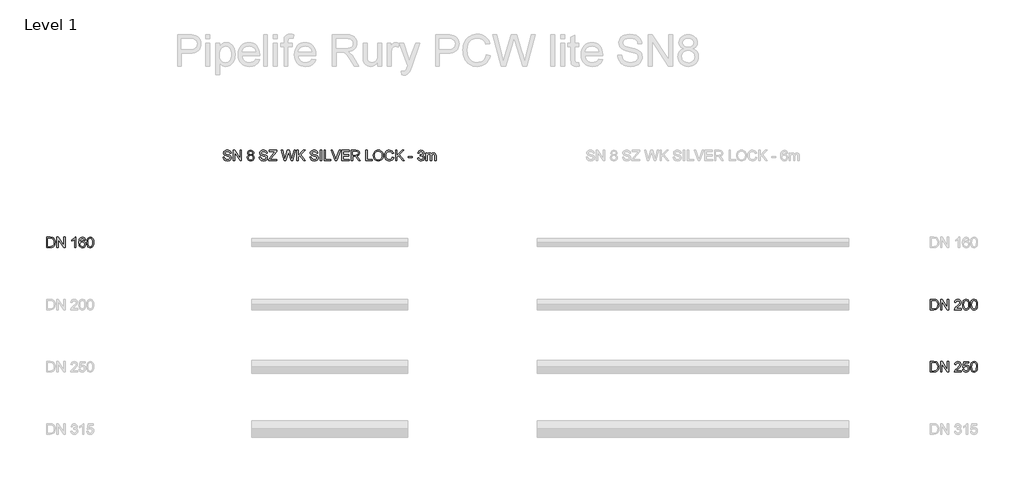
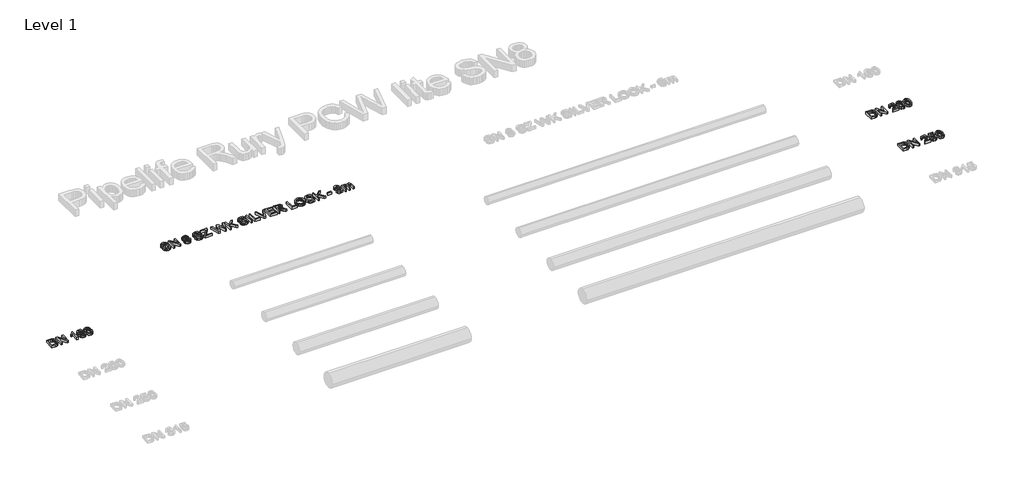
# One storey, part 6 of 8: 4 proxies.
"""IFC4 building model written with IfcOpenShell, lengths in millimetres."""

from ifc_helpers import new_model, si_unit, origin, origin_with_axes, place, context, project, spatial, polyline, outline, extrude, element, save

model = new_model("IFC4")

# Units and contexts
model_context = context("Model", 3, world=origin())
ifc_project = project(units=[si_unit("LENGTHUNIT", "METRE", prefix="MILLI")], contexts=[model_context])

# Site, building, storey
site = spatial("IfcSite", under=ifc_project)
building = spatial("IfcBuilding", under=site)
storey = spatial("IfcBuildingStorey", under=building, Name="Level 1", Elevation=0.0)

# Proxies
placement = place(None, origin())
element("IfcBuildingElementProxy", 1, Name="200mm Arial", ObjectType="200mm Arial", at=placement, inside=storey, context=model_context, shape_type="SweptSolid", body=[
    extrude(outline(polyline([(-19491.3116028, 486.050427), (-19491.3116028, 686.9630473), (-19422.0026349, 686.9630473), (-19386.1464031, 684.0690423), (-19370.1312736, 678.4894987), (-19356.6177416, 669.697119), (-19342.724065, 654.393228), (-19332.8280393, 635.3614662), (-19326.9051392, 612.9697154), (-19324.9308391, 587.5858577), (-19330.2773908, 547.0452618), (-19344.0116519, 517.7863805), (-19362.3567008, 499.563959), (-19386.3671323, 489.4839923), (-19418.6671715, 486.050427), (-19491.3116028, 486.050427)]), holes=[polyline([(-19466.1975253, 511.1645046), (-19421.7573803, 511.1645046), (-19389.4328156, 514.7942736), (-19370.7934612, 525.0459185), (-19362.0685265, 535.9168315), (-19355.5140957, 549.9883178), (-19351.4122114, 567.3216911), (-19350.0449167, 587.9782652), (-19352.7243239, 615.3486856), (-19360.7625455, 635.5576699), (-19372.6390025, 649.4390838), (-19386.8331162, 657.8267933), (-19422.4440933, 661.8489698), (-19466.1975253, 661.8489698), (-19466.1975253, 511.1645046)])]), origin_with_axes(), (0.0, 0.0, 1.0), 50.0),
    extrude(outline(polyline([(-19290.3989825, 486.050427), (-19290.3989825, 686.9630473), (-19263.5190714, 686.9630473), (-19158.5500754, 527.7927708), (-19158.5500754, 686.9630473), (-19133.4359979, 686.9630473), (-19133.4359979, 486.050427), (-19160.315909, 486.050427), (-19265.284905, 645.2697546), (-19265.284905, 486.050427), (-19290.3989825, 486.050427)])), origin_with_axes(), (0.0, 0.0, 1.0), 50.0),
    extrude(outline(polyline([(-18926.2448582, 486.050427), (-18951.3589358, 486.050427), (-18951.3589358, 642.6210042), (-18975.1486381, 625.6739069), (-19001.5870908, 612.9942408), (-19001.5870908, 636.7348923), (-18964.7743658, 660.230289), (-18951.3037535, 673.8051347), (-18942.431666, 686.9630473), (-18926.2448582, 686.9630473), (-18926.2448582, 486.050427)])), origin_with_axes(), (0.0, 0.0, 1.0), 50.0),
    extrude(outline(polyline([(-18737.8892767, 633.5956326), (-18763.0033542, 630.4563729), (-18772.5192352, 651.4011211), (-18783.9113143, 659.2370076), (-18797.6823636, 661.8489698), (-18820.3438945, 655.7666542), (-18829.7800677, 646.1588027), (-18837.4871955, 632.933445), (-18842.6927257, 614.2266455), (-18844.6241062, 588.1744689), (-18834.5502709, 599.9282987), (-18822.4776101, 608.2117749), (-18809.0805741, 613.1229995), (-18795.0336133, 614.7600744), (-18771.8325221, 610.2841768), (-18752.3593018, 596.856484), (-18739.1523382, 576.3409314), (-18734.750017, 550.6014545), (-18736.8224189, 532.6181563), (-18743.0396246, 515.9469705), (-18752.8865994, 501.8080392), (-18765.8483083, 491.4215042), (-18781.3361403, 485.0387516), (-18798.7614842, 482.9111674), (-18827.2539447, 488.5520246), (-18849.9461324, 505.4745964), (-18858.6051549, 518.5834582), (-18864.7901709, 535.3466144), (-18869.7381838, 579.8358103), (-18864.2444793, 629.855499), (-18857.3773487, 648.9332461), (-18847.7633659, 664.0562618), (-18837.3431084, 674.0779805), (-18825.2612505, 681.236351), (-18796.1127338, 686.9630473), (-18774.0766023, 683.4191175), (-18756.4305292, 672.7873278), (-18744.0696942, 655.9015442), (-18737.8892767, 633.5956326)]), holes=[polyline([(-18844.6241062, 550.9938619), (-18838.8115707, 529.2397733), (-18823.3605269, 513.445373), (-18800.7235215, 508.0252449), (-18784.1504376, 510.8334108), (-18771.1212836, 519.2579085), (-18762.6783918, 532.5016603), (-18759.8640945, 549.7675886), (-18762.6416036, 566.3406725), (-18770.9741308, 578.977419), (-18784.224014, 586.9788524), (-18801.7535911, 589.6459969), (-18818.3021495, 586.9788524), (-18832.1406439, 578.977419), (-18841.5032406, 566.6472408), (-18844.6241062, 550.9938619)])]), origin_with_axes(), (0.0, 0.0, 1.0), 50.0),
    extrude(outline(polyline([(-18712.7751992, 584.8880564), (-18710.9296578, 617.0470742), (-18705.3930338, 642.6945806), (-18696.2205094, 662.2229832), (-18683.4672669, 676.0246894), (-18667.0413358, 684.2284578), (-18646.8507456, 686.9630473), (-18631.3751764, 685.3443666), (-18617.5182879, 680.4883242), (-18605.930005, 672.5849927), (-18597.2602527, 661.8244443), (-18585.4880288, 632.0995791), (-18580.9262921, 584.8880564), (-18582.7534393, 552.9129797), (-18588.2348811, 527.3267869), (-18597.3522232, 507.7799902), (-18610.0870716, 493.9231017), (-18626.5497909, 485.664151), (-18646.8507456, 482.9111674), (-18672.9458418, 487.6936333), (-18692.7624186, 502.0410311), (-18701.5180101, 517.1701782), (-18707.772004, 536.0210647), (-18712.7751992, 584.8880564)]), holes=[polyline([(-18687.6611216, 584.9371073), (-18684.7180657, 545.4327124), (-18675.8888978, 522.5688464), (-18662.7432478, 511.6611453), (-18646.8507456, 508.0252449), (-18630.9582434, 511.673408), (-18617.8125935, 522.6178974), (-18608.9834256, 545.4940261), (-18606.0403696, 584.9371073), (-18608.8853237, 623.5524541), (-18617.420186, 646.5941297), (-18630.5413105, 658.0352598), (-18647.1450512, 661.8489698), (-18662.8658751, 658.4889809), (-18675.4964903, 648.4090143), (-18684.6199638, 623.9325988), (-18687.6611216, 584.9371073)])]), origin_with_axes(), (0.0, 0.0, 1.0), 50.0),
])
element("IfcBuildingElementProxy", 2, Name="200mm Arial", ObjectType="200mm Arial", at=placement, inside=storey, context=model_context, shape_type="SweptSolid", body=[
    extrude(outline(polyline([(-2460.6923074, -713.949573), (-2460.6923074, -513.0369527), (-2391.3833395, -513.0369527), (-2355.5271077, -515.9309577), (-2339.5119782, -521.5105013), (-2325.9984462, -530.302881), (-2312.1047695, -545.606772), (-2302.2087438, -564.6385338), (-2296.2858437, -587.0302846), (-2294.3115437, -612.4141423), (-2299.6580953, -652.9547382), (-2313.3923565, -682.2136195), (-2331.7374053, -700.436041), (-2355.7478369, -710.5160077), (-2388.0478761, -713.949573), (-2460.6923074, -713.949573)]), holes=[polyline([(-2435.5782298, -688.8354954), (-2391.1380848, -688.8354954), (-2358.8135202, -685.2057264), (-2340.1741658, -674.9540815), (-2331.4492311, -664.0831685), (-2324.8948002, -650.0116822), (-2320.792916, -632.6783089), (-2319.4256212, -612.0217348), (-2322.1050284, -584.6513144), (-2330.14325, -564.4423301), (-2342.0197071, -550.5609162), (-2356.2138207, -542.1732067), (-2391.8247979, -538.1510302), (-2435.5782298, -538.1510302), (-2435.5782298, -688.8354954)])]), origin_with_axes(), (0.0, 0.0, 1.0), 50.0),
    extrude(outline(polyline([(-2259.7796871, -713.949573), (-2259.7796871, -513.0369527), (-2232.899776, -513.0369527), (-2127.93078, -672.2072292), (-2127.93078, -513.0369527), (-2102.8167025, -513.0369527), (-2102.8167025, -713.949573), (-2129.6966136, -713.949573), (-2234.6656095, -554.7302454), (-2234.6656095, -713.949573), (-2259.7796871, -713.949573)])), origin_with_axes(), (0.0, 0.0, 1.0), 50.0),
    extrude(outline(polyline([(-1861.0937062, -688.8354954), (-1861.0937062, -713.949573), (-1992.9426132, -713.949573), (-1990.2448119, -696.6345937), (-1974.9899719, -669.9754118), (-1943.548324, -640.8636832), (-1900.1872995, -599.0232377), (-1892.0571074, -584.6022634), (-1889.3470434, -570.5736967), (-1891.9038233, -557.9982638), (-1899.5741629, -547.5442838), (-1911.3647808, -540.4993436), (-1926.2823957, -538.1510302), (-1941.9480373, -540.4441613), (-1954.1188, -547.3235546), (-1961.9730806, -558.2496499), (-1964.689276, -572.6828868), (-1989.8033535, -569.5436271), (-1983.7149065, -545.2511527), (-1970.5508625, -527.5069778), (-1950.9979344, -516.6544589), (-1925.7428355, -513.0369527), (-1900.3037955, -517.0591291), (-1880.7876556, -529.1256586), (-1868.3716383, -547.1518763), (-1864.2329659, -569.0531178), (-1868.6966007, -592.8673456), (-1883.5345079, -617.4909138), (-1919.513367, -651.9001431), (-1948.4043664, -676.0577275), (-1959.7351318, -688.8354954), (-1861.0937062, -688.8354954)])), origin_with_axes(), (0.0, 0.0, 1.0), 50.0),
    extrude(outline(polyline([(-1835.9796286, -615.1119436), (-1834.1340873, -582.9529258), (-1828.5974633, -557.3054194), (-1819.4249388, -537.7770168), (-1806.6716963, -523.9753106), (-1790.2457653, -515.7715422), (-1770.0551751, -513.0369527), (-1754.5796058, -514.6556334), (-1740.7227173, -519.5116758), (-1729.1344345, -527.4150073), (-1720.4646821, -538.1755557), (-1708.6924583, -567.9004209), (-1704.1307216, -615.1119436), (-1705.9578688, -647.0870203), (-1711.4393105, -672.6732131), (-1720.5566526, -692.2200098), (-1733.291501, -706.0768983), (-1749.7542203, -714.335849), (-1770.0551751, -717.0888326), (-1796.1502713, -712.3063667), (-1815.9668481, -697.9589689), (-1824.7224396, -682.8298218), (-1830.9764335, -663.9789353), (-1835.9796286, -615.1119436)]), holes=[polyline([(-1810.8655511, -615.0628927), (-1807.9224951, -654.5672876), (-1799.0933272, -677.4311536), (-1785.9476773, -688.3388547), (-1770.0551751, -691.9747551), (-1754.1626729, -688.326592), (-1741.0170229, -677.3821026), (-1732.1878551, -654.5059739), (-1729.2447991, -615.0628927), (-1732.0897532, -576.4475459), (-1740.6246155, -553.4058703), (-1753.74574, -541.9647402), (-1770.3494807, -538.1510302), (-1786.0703046, -541.5110191), (-1798.7009198, -551.5909857), (-1807.8243933, -576.0674012), (-1810.8655511, -615.0628927)])]), origin_with_axes(), (0.0, 0.0, 1.0), 50.0),
    extrude(outline(polyline([(-1682.1559037, -615.1119436), (-1680.3103624, -582.9529258), (-1674.7737383, -557.3054194), (-1665.6012139, -537.7770168), (-1652.8479714, -523.9753106), (-1636.4220403, -515.7715422), (-1616.2314502, -513.0369527), (-1600.7558809, -514.6556334), (-1586.8989924, -519.5116758), (-1575.3107096, -527.4150073), (-1566.6409572, -538.1755557), (-1554.8687334, -567.9004209), (-1550.3069966, -615.1119436), (-1552.1341439, -647.0870203), (-1557.6155856, -672.6732131), (-1566.7329277, -692.2200098), (-1579.4677761, -706.0768983), (-1595.9304954, -714.335849), (-1616.2314502, -717.0888326), (-1642.3265464, -712.3063667), (-1662.1431232, -697.9589689), (-1670.8987147, -682.8298218), (-1677.1527086, -663.9789353), (-1682.1559037, -615.1119436)]), holes=[polyline([(-1657.0418262, -615.0628927), (-1654.0987702, -654.5672876), (-1645.2696023, -677.4311536), (-1632.1239524, -688.3388547), (-1616.2314502, -691.9747551), (-1600.338948, -688.326592), (-1587.193298, -677.3821026), (-1578.3641301, -654.5059739), (-1575.4210742, -615.0628927), (-1578.2660283, -576.4475459), (-1586.8008906, -553.4058703), (-1599.9220151, -541.9647402), (-1616.5257558, -538.1510302), (-1632.2465797, -541.5110191), (-1644.8771949, -551.5909857), (-1654.0006683, -576.0674012), (-1657.0418262, -615.0628927)])]), origin_with_axes(), (0.0, 0.0, 1.0), 50.0),
])
element("IfcBuildingElementProxy", 3, Name="200mm Arial", ObjectType="200mm Arial", at=placement, inside=storey, context=model_context, shape_type="SweptSolid", body=[
    extrude(outline(polyline([(-2460.6923074, -1913.949573), (-2460.6923074, -1713.0369527), (-2391.3833395, -1713.0369527), (-2355.5271077, -1715.9309577), (-2339.5119782, -1721.5105013), (-2325.9984462, -1730.302881), (-2312.1047695, -1745.606772), (-2302.2087438, -1764.6385338), (-2296.2858437, -1787.0302846), (-2294.3115437, -1812.4141423), (-2299.6580953, -1852.9547382), (-2313.3923565, -1882.2136195), (-2331.7374053, -1900.436041), (-2355.7478369, -1910.5160077), (-2388.0478761, -1913.949573), (-2460.6923074, -1913.949573)]), holes=[polyline([(-2435.5782298, -1888.8354954), (-2391.1380848, -1888.8354954), (-2358.8135202, -1885.2057264), (-2340.1741658, -1874.9540815), (-2331.4492311, -1864.0831685), (-2324.8948002, -1850.0116822), (-2320.792916, -1832.6783089), (-2319.4256212, -1812.0217348), (-2322.1050284, -1784.6513144), (-2330.14325, -1764.4423301), (-2342.0197071, -1750.5609162), (-2356.2138207, -1742.1732067), (-2391.8247979, -1738.1510302), (-2435.5782298, -1738.1510302), (-2435.5782298, -1888.8354954)])]), origin_with_axes(), (0.0, 0.0, 1.0), 50.0),
    extrude(outline(polyline([(-2259.7796871, -1913.949573), (-2259.7796871, -1713.0369527), (-2232.899776, -1713.0369527), (-2127.93078, -1872.2072292), (-2127.93078, -1713.0369527), (-2102.8167025, -1713.0369527), (-2102.8167025, -1913.949573), (-2129.6966136, -1913.949573), (-2234.6656095, -1754.7302454), (-2234.6656095, -1913.949573), (-2259.7796871, -1913.949573)])), origin_with_axes(), (0.0, 0.0, 1.0), 50.0),
    extrude(outline(polyline([(-1861.0937062, -1888.8354954), (-1861.0937062, -1913.949573), (-1992.9426132, -1913.949573), (-1990.2448119, -1896.6345937), (-1974.9899719, -1869.9754118), (-1943.548324, -1840.8636832), (-1900.1872995, -1799.0232377), (-1892.0571074, -1784.6022634), (-1889.3470434, -1770.5736967), (-1891.9038233, -1757.9982638), (-1899.5741629, -1747.5442838), (-1911.3647808, -1740.4993436), (-1926.2823957, -1738.1510302), (-1941.9480373, -1740.4441613), (-1954.1188, -1747.3235546), (-1961.9730806, -1758.2496499), (-1964.689276, -1772.6828868), (-1989.8033535, -1769.5436271), (-1983.7149065, -1745.2511527), (-1970.5508625, -1727.5069778), (-1950.9979344, -1716.6544589), (-1925.7428355, -1713.0369527), (-1900.3037955, -1717.0591291), (-1880.7876556, -1729.1256586), (-1868.3716383, -1747.1518763), (-1864.2329659, -1769.0531178), (-1868.6966007, -1792.8673456), (-1883.5345079, -1817.4909138), (-1919.513367, -1851.9001431), (-1948.4043664, -1876.0577275), (-1959.7351318, -1888.8354954), (-1861.0937062, -1888.8354954)])), origin_with_axes(), (0.0, 0.0, 1.0), 50.0),
    extrude(outline(polyline([(-1835.9796286, -1860.5821582), (-1810.8655511, -1857.4428985), (-1806.2547634, -1872.5199289), (-1798.2104105, -1883.3172655), (-1786.7692804, -1889.8103827), (-1771.9681615, -1891.9747551), (-1753.9664692, -1888.9642541), (-1740.4774627, -1879.9327511), (-1732.052965, -1865.9225785), (-1729.2447991, -1847.9760685), (-1731.8751554, -1831.0780222), (-1739.7662242, -1818.1531014), (-1752.9793191, -1809.9493329), (-1771.575754, -1807.2147434), (-1793.6241482, -1811.5802764), (-1807.7262914, -1822.9110419), (-1832.8403689, -1819.7717822), (-1810.8655511, -1716.1762123), (-1713.5485006, -1716.1762123), (-1713.5485006, -1741.2902899), (-1790.558465, -1741.2902899), (-1801.3006192, -1796.619742), (-1783.3602406, -1785.7304349), (-1764.5614706, -1782.1006659), (-1741.0967307, -1786.601089), (-1721.6173791, -1800.1023582), (-1708.5023859, -1820.6792244), (-1704.1307216, -1846.4064386), (-1708.0670589, -1871.5205162), (-1719.876071, -1893.0048247), (-1730.3116569, -1903.5415782), (-1742.4885509, -1911.0678307), (-1756.4067531, -1915.5835821), (-1772.0662633, -1917.0888326), (-1796.7327511, -1913.2199403), (-1816.383781, -1901.6132634), (-1829.8543934, -1883.6177025), (-1835.9796286, -1860.5821582)])), origin_with_axes(), (0.0, 0.0, 1.0), 50.0),
    extrude(outline(polyline([(-1682.1559037, -1815.1119436), (-1680.3103624, -1782.9529258), (-1674.7737383, -1757.3054194), (-1665.6012139, -1737.7770168), (-1652.8479714, -1723.9753106), (-1636.4220403, -1715.7715422), (-1616.2314502, -1713.0369527), (-1600.7558809, -1714.6556334), (-1586.8989924, -1719.5116758), (-1575.3107096, -1727.4150073), (-1566.6409572, -1738.1755557), (-1554.8687334, -1767.9004209), (-1550.3069966, -1815.1119436), (-1552.1341439, -1847.0870203), (-1557.6155856, -1872.6732131), (-1566.7329277, -1892.2200098), (-1579.4677761, -1906.0768983), (-1595.9304954, -1914.335849), (-1616.2314502, -1917.0888326), (-1642.3265464, -1912.3063667), (-1662.1431232, -1897.9589689), (-1670.8987147, -1882.8298218), (-1677.1527086, -1863.9789353), (-1682.1559037, -1815.1119436)]), holes=[polyline([(-1657.0418262, -1815.0628927), (-1654.0987702, -1854.5672876), (-1645.2696023, -1877.4311536), (-1632.1239524, -1888.3388547), (-1616.2314502, -1891.9747551), (-1600.338948, -1888.326592), (-1587.193298, -1877.3821026), (-1578.3641301, -1854.5059739), (-1575.4210742, -1815.0628927), (-1578.2660283, -1776.4475459), (-1586.8008906, -1753.4058703), (-1599.9220151, -1741.9647402), (-1616.5257558, -1738.1510302), (-1632.2465797, -1741.5110191), (-1644.8771949, -1751.5909857), (-1654.0006683, -1776.0674012), (-1657.0418262, -1815.0628927)])]), origin_with_axes(), (0.0, 0.0, 1.0), 50.0),
])
element("IfcBuildingElementProxy", 4, Name="200mm Arial", ObjectType="200mm Arial", at=placement, inside=storey, context=model_context, shape_type="SweptSolid", body=[
    extrude(outline(polyline([(-16087.3125937, 2231.0128426), (-16062.1985162, 2231.0128426), (-16054.1051123, 2205.8742396), (-16045.9749202, 2196.983758), (-16034.3375864, 2189.9817374), (-16020.112816, 2185.4383947), (-16004.2203138, 2183.9239472), (-15977.9780648, 2188.5102094), (-15961.0309675, 2201.1162991), (-15955.4636867, 2217.9652945), (-15959.633016, 2233.6370675), (-15965.9851117, 2239.8358791), (-15976.7027405, 2245.0414093), (-16013.2702108, 2254.6308667), (-16052.6335843, 2267.0162272), (-16065.1354408, 2275.4652503), (-16073.9952655, 2285.7046325), (-16079.2743722, 2297.5136446), (-16081.0340744, 2310.6715573), (-16078.8574392, 2325.3807057), (-16072.3275338, 2339.0965728), (-16061.6160364, 2350.7216438), (-16046.8946252, 2359.1584042), (-16029.2240267, 2364.2903581), (-16009.6649673, 2366.0010093), (-15988.4749644, 2364.2106503), (-15969.9337118, 2358.8395732), (-15954.7033972, 2349.9981425), (-15943.4462082, 2337.796723), (-15936.3215602, 2322.9956041), (-15933.4888688, 2306.3550752), (-15958.6029464, 2306.3550752), (-15963.213734, 2321.3401351), (-15972.8277168, 2332.1558658), (-15987.849565, 2338.7041653), (-16008.6839486, 2340.8869318), (-16030.0088416, 2338.7286908), (-16044.6382823, 2332.2539676), (-16053.0995682, 2322.725824), (-16055.9199968, 2311.4073212), (-16053.9211713, 2301.7565502), (-16047.9246948, 2293.9942401), (-16033.7489752, 2287.0535332), (-16006.9181151, 2279.9656734), (-15962.47797, 2267.3595837), (-15948.1612291, 2258.2483729), (-15938.1732329, 2247.0034466), (-15932.3055151, 2233.7474321), (-15930.3496091, 2218.6029566), (-15932.5998207, 2203.121256), (-15939.3504553, 2188.5592603), (-15950.3256015, 2176.026747), (-15965.2493477, 2166.6334934), (-15983.1958577, 2160.7657756), (-16003.2392951, 2158.8098696), (-16027.8444692, 2160.9190598), (-16048.0963731, 2167.2466301), (-16064.2279985, 2177.8171061), (-16076.4723376, 2192.6550132), (-16084.3327496, 2210.7302819), (-16087.3125937, 2231.0128426)])), origin_with_axes(), (0.0, 0.0, 1.0), 50.0),
    extrude(outline(polyline([(-15892.6784928, 2161.9491293), (-15892.6784928, 2362.8617496), (-15865.7985817, 2362.8617496), (-15760.8295858, 2203.6914731), (-15760.8295858, 2362.8617496), (-15735.7155082, 2362.8617496), (-15735.7155082, 2161.9491293), (-15762.5954193, 2161.9491293), (-15867.5644153, 2321.1684569), (-15867.5644153, 2161.9491293), (-15892.6784928, 2161.9491293)])), origin_with_axes(), (0.0, 0.0, 1.0), 50.0),
    extrude(outline(polyline([(-15586.1101635, 2272.6080335), (-15599.5562504, 2279.2299094), (-15608.9924236, 2288.2062301), (-15614.5658358, 2299.3530545), (-15616.4236399, 2312.4864418), (-15612.376938, 2332.1190776), (-15600.2368321, 2348.3426736), (-15581.3644858, 2359.2319806), (-15557.1210623, 2362.8617496), (-15532.730486, 2359.1461415), (-15513.612885, 2347.999317), (-15501.25205, 2331.5182037), (-15497.1317716, 2311.7997287), (-15498.9650502, 2299.0894058), (-15504.4648861, 2288.1326537), (-15513.6925928, 2279.2115153), (-15526.709484, 2272.6080335), (-15511.2523089, 2264.6433883), (-15500.0012512, 2252.914084), (-15493.140252, 2237.9842064), (-15490.8532522, 2220.4178411), (-15495.3904635, 2196.4074096), (-15509.0020973, 2176.5663073), (-15530.020422, 2163.2489791), (-15556.7777058, 2158.8098696), (-15583.5349895, 2163.2673732), (-15604.5533142, 2176.6398837), (-15618.164948, 2196.6710583), (-15622.7021593, 2221.1045542), (-15620.3231891, 2239.3515011), (-15613.1862784, 2254.3610865), (-15601.6593092, 2265.6182756), (-15586.1101635, 2272.6080335)]), holes=[polyline([(-15591.3095624, 2311.7506778), (-15589.0838763, 2300.7877943), (-15582.4068181, 2292.0322028), (-15571.4745915, 2286.2932437), (-15556.4834002, 2284.3802573), (-15541.8416968, 2286.280981), (-15531.075017, 2291.9831519), (-15524.4531411, 2300.4444378), (-15522.2458492, 2310.6225063), (-15524.5267175, 2321.186851), (-15531.3693226, 2329.9240483), (-15542.2831552, 2335.7917662), (-15556.7777058, 2337.7476721), (-15571.3642269, 2335.8346857), (-15582.2596653, 2330.0957266), (-15589.0470881, 2321.6834916), (-15591.3095624, 2311.7506778)]), polyline([(-15597.5880818, 2221.987471), (-15593.394227, 2203.0783364), (-15587.5878229, 2194.9665384), (-15578.5563199, 2188.9271423), (-15556.581502, 2183.9239472), (-15539.487252, 2186.5543035), (-15526.6604331, 2194.4453722), (-15518.6406056, 2206.3954057), (-15515.9673298, 2221.202656), (-15518.7264447, 2236.2612924), (-15527.0037896, 2248.4749746), (-15540.1249141, 2256.5683785), (-15557.4153679, 2259.2661798), (-15574.2704946, 2256.6051667), (-15586.9685548, 2248.6221274), (-15594.9332, 2236.6414371), (-15597.5880818, 2221.987471)])]), origin_with_axes(), (0.0, 0.0, 1.0), 50.0),
    extrude(outline(polyline([(-15390.3969421, 2231.0128426), (-15365.2828645, 2231.0128426), (-15357.1894607, 2205.8742396), (-15349.0592686, 2196.983758), (-15337.4219348, 2189.9817374), (-15323.1971643, 2185.4383947), (-15307.3046621, 2183.9239472), (-15281.0624131, 2188.5102094), (-15264.1153159, 2201.1162991), (-15258.548035, 2217.9652945), (-15262.7173643, 2233.6370675), (-15269.0694601, 2239.8358791), (-15279.7870889, 2245.0414093), (-15316.3545592, 2254.6308667), (-15355.7179327, 2267.0162272), (-15368.2197891, 2275.4652503), (-15377.0796139, 2285.7046325), (-15382.3587205, 2297.5136446), (-15384.1184227, 2310.6715573), (-15381.9417876, 2325.3807057), (-15375.4118821, 2339.0965728), (-15364.7003847, 2350.7216438), (-15349.9789735, 2359.1584042), (-15332.308375, 2364.2903581), (-15312.7493156, 2366.0010093), (-15291.5593127, 2364.2106503), (-15273.0180602, 2358.8395732), (-15257.7877456, 2349.9981425), (-15246.5305565, 2337.796723), (-15239.4059085, 2322.9956041), (-15236.5732172, 2306.3550752), (-15261.6872947, 2306.3550752), (-15266.2980824, 2321.3401351), (-15275.9120652, 2332.1558658), (-15290.9339133, 2338.7041653), (-15311.768297, 2340.8869318), (-15333.09319, 2338.7286908), (-15347.7226306, 2332.2539676), (-15356.1839165, 2322.725824), (-15359.0043452, 2311.4073212), (-15357.0055197, 2301.7565502), (-15351.0090431, 2293.9942401), (-15336.8333236, 2287.0535332), (-15310.0024634, 2279.9656734), (-15265.5623184, 2267.3595837), (-15251.2455774, 2258.2483729), (-15241.2575812, 2247.0034466), (-15235.3898634, 2233.7474321), (-15233.4339575, 2218.6029566), (-15235.684169, 2203.121256), (-15242.4348036, 2188.5592603), (-15253.4099498, 2176.026747), (-15268.3336961, 2166.6334934), (-15286.2802061, 2160.7657756), (-15306.3236435, 2158.8098696), (-15330.9288176, 2160.9190598), (-15351.1807214, 2167.2466301), (-15367.3123469, 2177.8171061), (-15379.556686, 2192.6550132), (-15387.4170979, 2210.7302819), (-15390.3969421, 2231.0128426)])), origin_with_axes(), (0.0, 0.0, 1.0), 50.0),
    extrude(outline(polyline([(-15211.4591396, 2161.9491293), (-15211.4591396, 2187.9951746), (-15108.6974356, 2313.810817), (-15089.1751644, 2337.7476721), (-15198.9021009, 2337.7476721), (-15198.9021009, 2362.8617496), (-15057.6354147, 2362.8617496), (-15057.6354147, 2337.7476721), (-15170.1092034, 2200.061704), (-15180.7042048, 2187.0632069), (-15054.496155, 2187.0632069), (-15054.496155, 2161.9491293), (-15211.4591396, 2161.9491293)])), origin_with_axes(), (0.0, 0.0, 1.0), 50.0),
    extrude(outline(polyline([(-14911.8069918, 2161.9491293), (-14966.5968836, 2362.8617496), (-14940.6979912, 2362.8617496), (-14908.9129868, 2230.8166388), (-14899.1028003, 2190.0553138), (-14888.6059007, 2226.1077493), (-14848.7765433, 2362.8617496), (-14811.4487835, 2362.8617496), (-14782.5087333, 2263.7298147), (-14760.9753738, 2190.0553138), (-14751.4594929, 2229.6394165), (-14719.3801829, 2362.8617496), (-14693.4812904, 2362.8617496), (-14748.3202332, 2161.9491293), (-14775.1510933, 2161.9491293), (-14823.3191092, 2316.9500766), (-14830.039087, 2338.581538), (-14837.5929307, 2312.5354927), (-14881.4935154, 2161.9491293), (-14911.8069918, 2161.9491293)])), origin_with_axes(), (0.0, 0.0, 1.0), 50.0),
    extrude(outline(polyline([(-14668.3672129, 2161.9491293), (-14668.3672129, 2362.8617496), (-14643.2531353, 2362.8617496), (-14643.2531353, 2264.5146296), (-14540.2461767, 2362.8617496), (-14505.1257089, 2362.8617496), (-14591.6025032, 2280.259979), (-14501.9864492, 2161.9491293), (-14532.6923331, 2161.9491293), (-14609.4079918, 2263.2883563), (-14643.2531353, 2231.0128426), (-14643.2531353, 2161.9491293), (-14668.3672129, 2161.9491293)])), origin_with_axes(), (0.0, 0.0, 1.0), 50.0),
    extrude(outline(polyline([(-14414.0871778, 2231.0128426), (-14388.9731003, 2231.0128426), (-14380.8796964, 2205.8742396), (-14372.7495043, 2196.983758), (-14361.1121705, 2189.9817374), (-14346.8874, 2185.4383947), (-14330.9948978, 2183.9239472), (-14304.7526488, 2188.5102094), (-14287.8055516, 2201.1162991), (-14282.2382707, 2217.9652945), (-14286.4076, 2233.6370675), (-14292.7596958, 2239.8358791), (-14303.4773246, 2245.0414093), (-14340.0447949, 2254.6308667), (-14379.4081684, 2267.0162272), (-14391.9100249, 2275.4652503), (-14400.7698496, 2285.7046325), (-14406.0489562, 2297.5136446), (-14407.8086584, 2310.6715573), (-14405.6320233, 2325.3807057), (-14399.1021179, 2339.0965728), (-14388.3906205, 2350.7216438), (-14373.6692093, 2359.1584042), (-14355.9986108, 2364.2903581), (-14336.4395514, 2366.0010093), (-14315.2495484, 2364.2106503), (-14296.7082959, 2358.8395732), (-14281.4779813, 2349.9981425), (-14270.2207922, 2337.796723), (-14263.0961443, 2322.9956041), (-14260.2634529, 2306.3550752), (-14285.3775304, 2306.3550752), (-14289.9883181, 2321.3401351), (-14299.6023009, 2332.1558658), (-14314.6241491, 2338.7041653), (-14335.4585327, 2340.8869318), (-14356.7834257, 2338.7286908), (-14371.4128664, 2332.2539676), (-14379.8741523, 2322.725824), (-14382.6945809, 2311.4073212), (-14380.6957554, 2301.7565502), (-14374.6992789, 2293.9942401), (-14360.5235593, 2287.0535332), (-14333.6926991, 2279.9656734), (-14289.2525541, 2267.3595837), (-14274.9358131, 2258.2483729), (-14264.947817, 2247.0034466), (-14259.0800991, 2233.7474321), (-14257.1241932, 2218.6029566), (-14259.3744047, 2203.121256), (-14266.1250394, 2188.5592603), (-14277.1001855, 2176.026747), (-14292.0239318, 2166.6334934), (-14309.9704418, 2160.7657756), (-14330.0138792, 2158.8098696), (-14354.6190533, 2160.9190598), (-14374.8709571, 2167.2466301), (-14391.0025826, 2177.8171061), (-14403.2469217, 2192.6550132), (-14411.1073337, 2210.7302819), (-14414.0871778, 2231.0128426)])), origin_with_axes(), (0.0, 0.0, 1.0), 50.0),
    extrude(outline(polyline([(-14216.3138172, 2161.9491293), (-14216.3138172, 2362.8617496), (-14191.1997397, 2362.8617496), (-14191.1997397, 2161.9491293), (-14216.3138172, 2161.9491293)])), origin_with_axes(), (0.0, 0.0, 1.0), 50.0),
    extrude(outline(polyline([(-14140.9715846, 2161.9491293), (-14140.9715846, 2362.8617496), (-14115.8575071, 2362.8617496), (-14115.8575071, 2187.0632069), (-14015.4011969, 2187.0632069), (-14015.4011969, 2161.9491293), (-14140.9715846, 2161.9491293)])), origin_with_axes(), (0.0, 0.0, 1.0), 50.0),
    extrude(outline(polyline([(-13927.7962311, 2161.9491293), (-14007.7492514, 2362.8617496), (-13980.8693403, 2362.8617496), (-13927.3547727, 2218.1124473), (-13916.5145166, 2185.493577), (-13905.8214133, 2218.1124473), (-13852.1596929, 2362.8617496), (-13825.2797818, 2362.8617496), (-13901.8482877, 2161.9491293), (-13927.7962311, 2161.9491293)])), origin_with_axes(), (0.0, 0.0, 1.0), 50.0),
    extrude(outline(polyline([(-13801.9315378, 2161.9491293), (-13801.9315378, 2362.8617496), (-13657.525592, 2362.8617496), (-13657.525592, 2337.7476721), (-13776.8174603, 2337.7476721), (-13776.8174603, 2278.101738), (-13663.8041114, 2278.101738), (-13663.8041114, 2252.9876604), (-13776.8174603, 2252.9876604), (-13776.8174603, 2187.0632069), (-13654.3863323, 2187.0632069), (-13654.3863323, 2161.9491293), (-13801.9315378, 2161.9491293)])), origin_with_axes(), (0.0, 0.0, 1.0), 50.0),
    extrude(outline(polyline([(-13616.715216, 2161.9491293), (-13616.715216, 2362.8617496), (-13530.1403198, 2362.8617496), (-13506.8717836, 2361.5067176), (-13489.9430805, 2357.4416216), (-13477.5699827, 2349.9368289), (-13467.9682626, 2338.2627069), (-13461.8062392, 2323.7865504), (-13459.7522314, 2307.8756541), (-13463.1551398, 2288.0836028), (-13473.3638652, 2271.6760658), (-13490.6849758, 2259.6463245), (-13515.42504, 2252.9876604), (-13501.1512186, 2242.2455062), (-13480.7950815, 2216.3956646), (-13447.2932945, 2161.9491293), (-13476.4785994, 2161.9491293), (-13502.6227466, 2203.5933712), (-13521.5073557, 2231.1599954), (-13534.7756329, 2244.183018), (-13546.7195351, 2248.9654839), (-13561.2876621, 2249.8484007), (-13591.6011385, 2249.8484007), (-13591.6011385, 2161.9491293), (-13616.715216, 2161.9491293)]), holes=[polyline([(-13591.6011385, 2274.9624783), (-13535.3887696, 2274.9624783), (-13506.7184994, 2278.5186709), (-13497.2884576, 2283.1417213), (-13490.4335898, 2289.8984873), (-13484.8663089, 2306.9436864), (-13487.5211907, 2319.1941568), (-13495.4858359, 2329.065657), (-13509.1894402, 2335.5771683), (-13529.0611993, 2337.7476721), (-13591.6011385, 2337.7476721), (-13591.6011385, 2274.9624783)])]), origin_with_axes(), (0.0, 0.0, 1.0), 50.0),
    extrude(outline(polyline([(-13337.3211034, 2161.9491293), (-13337.3211034, 2362.8617496), (-13312.2070259, 2362.8617496), (-13312.2070259, 2187.0632069), (-13211.7507157, 2187.0632069), (-13211.7507157, 2161.9491293), (-13337.3211034, 2161.9491293)])), origin_with_axes(), (0.0, 0.0, 1.0), 50.0),
    extrude(outline(polyline([(-13192.9151576, 2259.7566891), (-13191.2412945, 2283.3225966), (-13186.2197052, 2304.1845714), (-13177.8503899, 2322.3426136), (-13166.1333483, 2337.796723), (-13151.7706221, 2350.1360983), (-13135.4642526, 2358.9499378), (-13117.21424, 2364.2382414), (-13097.0205841, 2366.0010093), (-13070.6679706, 2362.6900714), (-13047.0376837, 2352.7572575), (-13027.4173107, 2336.9015435), (-13013.0944383, 2315.8219052), (-13004.3388468, 2290.5361494), (-13001.4203163, 2262.062083), (-13004.492131, 2233.2078718), (-13013.707575, 2207.5664967), (-13028.5577448, 2186.4500702), (-13048.5337372, 2171.1707047), (-13071.9616889, 2161.9000784), (-13097.1677369, 2158.8098696), (-13123.9250207, 2162.2250408), (-13147.6901976, 2172.4705544), (-13167.2615198, 2188.620574), (-13181.4372393, 2209.7492632), (-13190.045678, 2234.0601318), (-13192.9151576, 2259.7566891)]), holes=[polyline([(-13167.80108, 2259.5114345), (-13162.7794908, 2228.0820493), (-13147.7147231, 2204.1329315), (-13125.0715863, 2188.9761933), (-13097.3148897, 2183.9239472), (-13069.153523, 2189.0252442), (-13046.473598, 2204.3291352), (-13037.7501962, 2215.6016527), (-13031.5191949, 2229.0140171), (-13026.5343939, 2262.2582867), (-13028.6681094, 2284.4906219), (-13035.0692562, 2303.7063248), (-13045.5722871, 2319.4210174), (-13060.0116554, 2331.1503217), (-13077.4308679, 2338.4527793), (-13096.8734314, 2340.8869318), (-13123.8882325, 2336.1964364), (-13146.8563318, 2322.12495), (-13156.0196591, 2311.1758622), (-13162.564893, 2297.0905803), (-13167.80108, 2259.5114345)])]), origin_with_axes(), (0.0, 0.0, 1.0), 50.0),
    extrude(outline(polyline([(-12825.6217736, 2233.3672873), (-12800.507696, 2226.8925642), (-12812.0959789, 2197.6275515), (-12830.2816122, 2176.2474762), (-12854.1694164, 2163.1692713), (-12882.864212, 2158.8098696), (-12911.9943347, 2162.1085449), (-12935.1279808, 2172.0045705), (-12952.859893, 2188.1545901), (-12965.7848137, 2210.2152471), (-12973.6758825, 2236.1509278), (-12976.3062388, 2263.9260184), (-12973.332526, 2293.221688), (-12964.4113876, 2318.5197065), (-12950.0088075, 2339.016865), (-12930.5907695, 2353.9099544), (-12907.5613566, 2362.9782456), (-12882.3246518, 2366.0010093), (-12854.7886844, 2362.0891975), (-12832.0229203, 2350.3537618), (-12814.7385979, 2331.5182037), (-12803.6469557, 2306.3060242), (-12828.7610333, 2300.3218105), (-12837.4675738, 2318.6362025), (-12849.362425, 2331.1993726), (-12864.5927396, 2338.465042), (-12883.3056704, 2340.8869318), (-12904.8758181, 2338.2013932), (-12922.5954675, 2330.1447775), (-12936.0415544, 2317.5632133), (-12944.7910145, 2301.3028291), (-12949.5918746, 2282.9209921), (-12951.1921613, 2263.9750693), (-12949.297569, 2240.7739782), (-12943.6137922, 2220.7121467), (-12933.926233, 2204.5559957), (-12920.0202935, 2193.0719461), (-12903.3491078, 2186.2109469), (-12885.3658096, 2183.9239472), (-12864.4026672, 2187.0386814), (-12846.9344038, 2196.3828841), (-12833.7458343, 2211.8584534), (-12825.6217736, 2233.3672873)])), origin_with_axes(), (0.0, 0.0, 1.0), 50.0),
    extrude(outline(polyline([(-12765.9758394, 2161.9491293), (-12765.9758394, 2362.8617496), (-12740.8617619, 2362.8617496), (-12740.8617619, 2264.5146296), (-12637.8548032, 2362.8617496), (-12602.7343354, 2362.8617496), (-12689.2111298, 2280.259979), (-12599.5950757, 2161.9491293), (-12630.3009596, 2161.9491293), (-12707.0166183, 2263.2883563), (-12740.8617619, 2231.0128426), (-12740.8617619, 2161.9491293), (-12765.9758394, 2161.9491293)])), origin_with_axes(), (0.0, 0.0, 1.0), 50.0),
    extrude(outline(polyline([(-12517.9743237, 2221.5950635), (-12517.9743237, 2246.709141), (-12439.4928314, 2246.709141), (-12439.4928314, 2221.5950635), (-12517.9743237, 2221.5950635)])), origin_with_axes(), (0.0, 0.0, 1.0), 50.0),
    extrude(outline(polyline([(-12339.0365213, 2215.3165441), (-12313.9224438, 2218.4558038), (-12308.2999806, 2202.6736662), (-12300.0655553, 2192.0173511), (-12288.8144976, 2185.9472982), (-12274.1421373, 2183.9239472), (-12256.92526, 2186.7075876), (-12243.6324572, 2195.0585089), (-12235.1343831, 2207.5174458), (-12232.3016918, 2222.6251331), (-12235.1098576, 2236.9663995), (-12243.5343553, 2248.5976019), (-12256.2875978, 2256.3047297), (-12272.0819982, 2258.8737723), (-12289.691283, 2256.1269201), (-12286.8953798, 2281.2409976), (-12282.8732034, 2280.946692), (-12267.8268298, 2282.7493138), (-12254.3746115, 2288.1571792), (-12244.883256, 2297.3051781), (-12241.7194708, 2310.3282007), (-12244.0126019, 2321.1745882), (-12250.8919952, 2329.9730993), (-12261.3888948, 2335.8040289), (-12274.5345448, 2337.7476721), (-12287.7047202, 2335.7856348), (-12298.4714, 2329.8995229), (-12306.3318119, 2320.0893363), (-12310.7831841, 2306.3550752), (-12335.8972616, 2309.4943349), (-12328.5028335, 2332.0455012), (-12315.3449208, 2348.8822338), (-12297.3432285, 2359.3668707), (-12275.4174616, 2362.8617496), (-12259.6291926, 2361.1388356), (-12245.1285107, 2355.9700936), (-12232.9025657, 2347.815376), (-12223.9385077, 2337.1345354), (-12218.4386719, 2324.8288827), (-12216.6053933, 2311.7997287), (-12218.3467014, 2299.6596229), (-12223.5706257, 2288.6476885), (-12232.2035899, 2279.2666976), (-12244.1720175, 2272.0194223), (-12228.4511935, 2265.6673265), (-12216.801597, 2254.8515959), (-12209.5911099, 2240.1608415), (-12207.1876142, 2222.1836747), (-12211.9946056, 2197.7072593), (-12226.4155798, 2177.2530203), (-12248.1819312, 2163.4206573), (-12275.0250541, 2158.8098696), (-12299.3052658, 2162.746207), (-12319.0727917, 2174.555219), (-12332.8193156, 2192.618225), (-12339.0365213, 2215.3165441)])), origin_with_axes(), (0.0, 0.0, 1.0), 50.0),
    extrude(outline(polyline([(-12178.934277, 2161.9491293), (-12178.934277, 2309.4943349), (-12153.8201994, 2309.4943349), (-12153.8201994, 2285.2141232), (-12146.2663558, 2296.367079), (-12136.5542711, 2305.1042764), (-12125.0150392, 2310.751265), (-12111.9797539, 2312.6335946), (-12098.0125008, 2310.7144768), (-12086.8166254, 2304.9571236), (-12078.4534414, 2295.7416796), (-12072.9842624, 2283.4482896), (-12063.8301321, 2296.2168605), (-12053.3884148, 2305.3372683), (-12041.6591105, 2310.809513), (-12028.6422192, 2312.6335946), (-12009.7637415, 2309.5985681), (-11995.8026198, 2300.4934887), (-11987.175787, 2285.0731018), (-11984.3001761, 2263.0921525), (-11984.3001761, 2161.9491293), (-12009.4142536, 2161.9491293), (-12009.4142536, 2252.3009474), (-12011.7441729, 2273.2702211), (-12020.1809333, 2283.5954424), (-12034.5283311, 2287.519517), (-12048.1338336, 2285.0056567), (-12059.2254758, 2277.4640758), (-12066.6015098, 2264.3797395), (-12069.0601878, 2245.237613), (-12069.0601878, 2161.9491293), (-12094.1742653, 2161.9491293), (-12094.1742653, 2255.0968505), (-12095.6273992, 2269.2970955), (-12099.9868008, 2279.4261131), (-12107.6571404, 2285.4961661), (-12119.0430882, 2287.519517), (-12137.6333917, 2282.1239144), (-12144.9910316, 2275.4775131), (-12149.9942267, 2266.3295141), (-12153.8201994, 2236.3593942), (-12153.8201994, 2161.9491293), (-12178.934277, 2161.9491293)])), origin_with_axes(), (0.0, 0.0, 1.0), 50.0),
])

save(model, "model.ifc")
